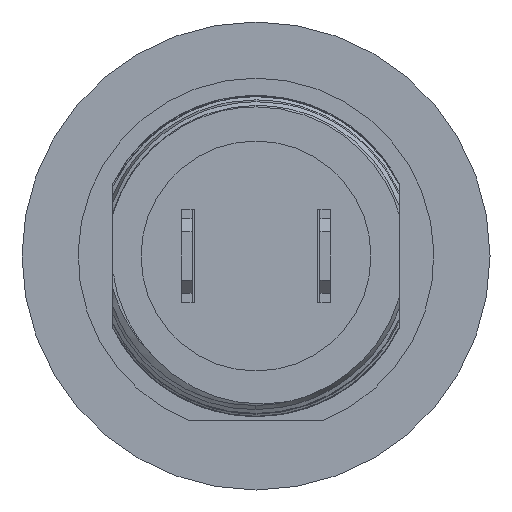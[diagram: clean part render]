
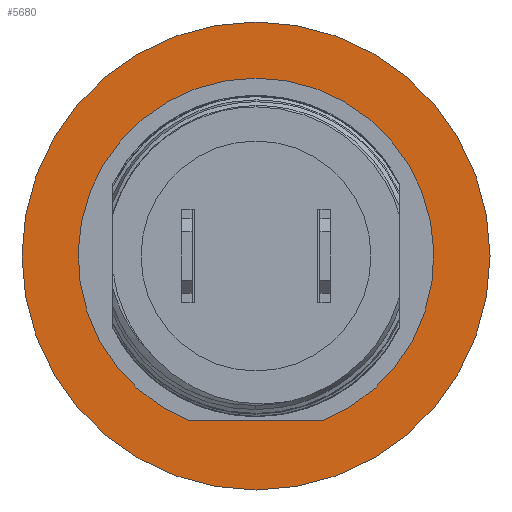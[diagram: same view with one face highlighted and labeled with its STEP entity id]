
A CAD part, front view. The second image highlights one B-rep face of the part: STEP entity #5680.
In plain terms, the highlighted planar face has unit normal (0, -1, 0).
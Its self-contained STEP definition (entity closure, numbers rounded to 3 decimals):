
#830 = CARTESIAN_POINT ( 'NONE',  ( 0., 12.468, 0. ) ) ;
#837 = DIRECTION ( 'NONE',  ( 0., -1., 0. ) ) ;
#838 = DIRECTION ( 'NONE',  ( 0., 0., 1. ) ) ;
#839 = CARTESIAN_POINT ( 'NONE',  ( 0., 12.468, 0. ) ) ;
#840 = LINE ( 'NONE', #841, #5979 ) ;
#841 = CARTESIAN_POINT ( 'NONE',  ( 0., 12.468, -6.15 ) ) ;
#842 = DIRECTION ( 'NONE',  ( 1., 0., 0. ) ) ;
#843 = DIRECTION ( 'NONE',  ( 0., -1., 0. ) ) ;
#844 = DIRECTION ( 'NONE',  ( 0., 0., -1. ) ) ;
#912 = CARTESIAN_POINT ( 'NONE',  ( 0., 12.468, 0. ) ) ;
#913 = DIRECTION ( 'NONE',  ( 0., -1., 0. ) ) ;
#914 = DIRECTION ( 'NONE',  ( 0., 0., -1. ) ) ;
#924 = CARTESIAN_POINT ( 'NONE',  ( 0., 12.468, 0. ) ) ;
#925 = DIRECTION ( 'NONE',  ( 0., -1., 0. ) ) ;
#926 = DIRECTION ( 'NONE',  ( 0., 0., 1. ) ) ;
#2321 = PLANE ( 'NONE',  #2603 ) ;
#2322 = CARTESIAN_POINT ( 'NONE',  ( 8.855, 12.468, 8.855 ) ) ;
#2323 = DIRECTION ( 'NONE',  ( 0., 1., 0. ) ) ;
#2324 = DIRECTION ( 'NONE',  ( 0., 0., -1. ) ) ;
#2593 = FACE_BOUND ( 'NONE', #4711, .T. ) ;
#2601 = FACE_OUTER_BOUND ( 'NONE', #4713, .T. ) ;
#2603 = AXIS2_PLACEMENT_3D ( 'NONE', #2322, #2323, #2324 ) ;
#2774 = VERTEX_POINT ( 'NONE', #4739 ) ;
#2775 = VERTEX_POINT ( 'NONE', #4740 ) ;
#2778 = VERTEX_POINT ( 'NONE', #4743 ) ;
#2780 = VERTEX_POINT ( 'NONE', #4745 ) ;
#3956 = VERTEX_POINT ( 'NONE', #6720 ) ;
#4350 = EDGE_CURVE ( 'NONE', #3956, #2778, #4410, .T. ) ;
#4351 = EDGE_CURVE ( 'NONE', #2780, #3956, #840, .T. ) ;
#4352 = EDGE_CURVE ( 'NONE', #2774, #2775, #4411, .T. ) ;
#4374 = EDGE_CURVE ( 'NONE', #2775, #2774, #4426, .T. ) ;
#4378 = EDGE_CURVE ( 'NONE', #2778, #2780, #4428, .T. ) ;
#4410 = CIRCLE ( 'NONE', #5976, 6.65 ) ;
#4411 = CIRCLE ( 'NONE', #5978, 8.75 ) ;
#4426 = CIRCLE ( 'NONE', #5994, 8.75 ) ;
#4428 = CIRCLE ( 'NONE', #5988, 6.65 ) ;
#4480 = ORIENTED_EDGE ( 'NONE', *, *, #4350, .F. ) ;
#4481 = ORIENTED_EDGE ( 'NONE', *, *, #4351, .F. ) ;
#4482 = ORIENTED_EDGE ( 'NONE', *, *, #4378, .F. ) ;
#4483 = ORIENTED_EDGE ( 'NONE', *, *, #4374, .T. ) ;
#4484 = ORIENTED_EDGE ( 'NONE', *, *, #4352, .T. ) ;
#4711 = EDGE_LOOP ( 'NONE', ( #4480, #4481, #4482 ) ) ;
#4713 = EDGE_LOOP ( 'NONE', ( #4483, #4484 ) ) ;
#4739 = CARTESIAN_POINT ( 'NONE',  ( 0., 12.468, 8.75 ) ) ;
#4740 = CARTESIAN_POINT ( 'NONE',  ( 0., 12.468, -8.75 ) ) ;
#4743 = CARTESIAN_POINT ( 'NONE',  ( 0., 12.468, 6.65 ) ) ;
#4745 = CARTESIAN_POINT ( 'NONE',  ( -2.53, 12.468, -6.15 ) ) ;
#5680 = ADVANCED_FACE ( 'NONE', ( #2593, #2601 ), #2321, .F. ) ;
#5976 = AXIS2_PLACEMENT_3D ( 'NONE', #830, #837, #838 ) ;
#5978 = AXIS2_PLACEMENT_3D ( 'NONE', #839, #843, #844 ) ;
#5979 = VECTOR ( 'NONE', #842, 1000. ) ;
#5988 = AXIS2_PLACEMENT_3D ( 'NONE', #924, #925, #926 ) ;
#5994 = AXIS2_PLACEMENT_3D ( 'NONE', #912, #913, #914 ) ;
#6720 = CARTESIAN_POINT ( 'NONE',  ( 2.53, 12.468, -6.15 ) ) ;
